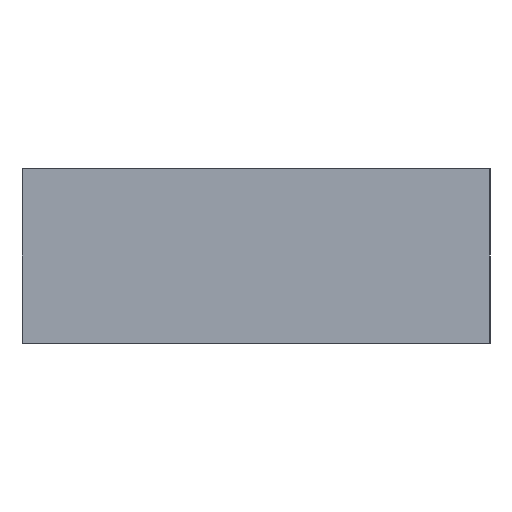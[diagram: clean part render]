
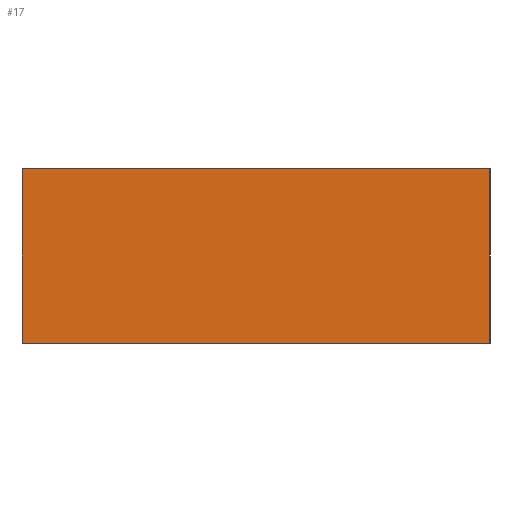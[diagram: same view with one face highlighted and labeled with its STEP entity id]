
A CAD part, left-side view. The second image highlights one B-rep face of the part: STEP entity #17.
In plain terms, the highlighted planar face has unit normal (-1, 0, 0).
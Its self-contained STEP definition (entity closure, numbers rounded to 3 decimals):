
#17 = ADVANCED_FACE('',(#18),#32,.F.);
#18 = FACE_BOUND('',#19,.F.);
#19 = EDGE_LOOP('',(#20,#55,#83,#111));
#20 = ORIENTED_EDGE('',*,*,#21,.F.);
#21 = EDGE_CURVE('',#22,#24,#26,.T.);
#22 = VERTEX_POINT('',#23);
#23 = CARTESIAN_POINT('',(-27.5,-16.1,-6.));
#24 = VERTEX_POINT('',#25);
#25 = CARTESIAN_POINT('',(-27.5,-16.1,6.));
#26 = SURFACE_CURVE('',#27,(#31,#43),.PCURVE_S1.);
#27 = LINE('',#28,#29);
#28 = CARTESIAN_POINT('',(-27.5,-16.1,-6.));
#29 = VECTOR('',#30,1.);
#30 = DIRECTION('',(0.,0.,1.));
#31 = PCURVE('',#32,#37);
#32 = PLANE('',#33);
#33 = AXIS2_PLACEMENT_3D('',#34,#35,#36);
#34 = CARTESIAN_POINT('',(-27.5,-16.1,-6.));
#35 = DIRECTION('',(1.,0.,0.));
#36 = DIRECTION('',(0.,0.,1.));
#37 = DEFINITIONAL_REPRESENTATION('',(#38),#42);
#38 = LINE('',#39,#40);
#39 = CARTESIAN_POINT('',(0.,0.));
#40 = VECTOR('',#41,1.);
#41 = DIRECTION('',(1.,0.));
#42 = ( GEOMETRIC_REPRESENTATION_CONTEXT(2) 
PARAMETRIC_REPRESENTATION_CONTEXT() REPRESENTATION_CONTEXT('2D SPACE',''
  ) );
#43 = PCURVE('',#44,#49);
#44 = PLANE('',#45);
#45 = AXIS2_PLACEMENT_3D('',#46,#47,#48);
#46 = CARTESIAN_POINT('',(-27.5,-16.1,-6.));
#47 = DIRECTION('',(0.,1.,0.));
#48 = DIRECTION('',(0.,0.,1.));
#49 = DEFINITIONAL_REPRESENTATION('',(#50),#54);
#50 = LINE('',#51,#52);
#51 = CARTESIAN_POINT('',(0.,0.));
#52 = VECTOR('',#53,1.);
#53 = DIRECTION('',(1.,0.));
#54 = ( GEOMETRIC_REPRESENTATION_CONTEXT(2) 
PARAMETRIC_REPRESENTATION_CONTEXT() REPRESENTATION_CONTEXT('2D SPACE',''
  ) );
#55 = ORIENTED_EDGE('',*,*,#56,.T.);
#56 = EDGE_CURVE('',#22,#57,#59,.T.);
#57 = VERTEX_POINT('',#58);
#58 = CARTESIAN_POINT('',(-27.5,16.1,-6.));
#59 = SURFACE_CURVE('',#60,(#64,#71),.PCURVE_S1.);
#60 = LINE('',#61,#62);
#61 = CARTESIAN_POINT('',(-27.5,-16.1,-6.));
#62 = VECTOR('',#63,1.);
#63 = DIRECTION('',(0.,1.,0.));
#64 = PCURVE('',#32,#65);
#65 = DEFINITIONAL_REPRESENTATION('',(#66),#70);
#66 = LINE('',#67,#68);
#67 = CARTESIAN_POINT('',(0.,0.));
#68 = VECTOR('',#69,1.);
#69 = DIRECTION('',(0.,-1.));
#70 = ( GEOMETRIC_REPRESENTATION_CONTEXT(2) 
PARAMETRIC_REPRESENTATION_CONTEXT() REPRESENTATION_CONTEXT('2D SPACE',''
  ) );
#71 = PCURVE('',#72,#77);
#72 = PLANE('',#73);
#73 = AXIS2_PLACEMENT_3D('',#74,#75,#76);
#74 = CARTESIAN_POINT('',(-27.5,-16.1,-6.));
#75 = DIRECTION('',(0.,0.,1.));
#76 = DIRECTION('',(1.,0.,0.));
#77 = DEFINITIONAL_REPRESENTATION('',(#78),#82);
#78 = LINE('',#79,#80);
#79 = CARTESIAN_POINT('',(0.,0.));
#80 = VECTOR('',#81,1.);
#81 = DIRECTION('',(0.,1.));
#82 = ( GEOMETRIC_REPRESENTATION_CONTEXT(2) 
PARAMETRIC_REPRESENTATION_CONTEXT() REPRESENTATION_CONTEXT('2D SPACE',''
  ) );
#83 = ORIENTED_EDGE('',*,*,#84,.T.);
#84 = EDGE_CURVE('',#57,#85,#87,.T.);
#85 = VERTEX_POINT('',#86);
#86 = CARTESIAN_POINT('',(-27.5,16.1,6.));
#87 = SURFACE_CURVE('',#88,(#92,#99),.PCURVE_S1.);
#88 = LINE('',#89,#90);
#89 = CARTESIAN_POINT('',(-27.5,16.1,-6.));
#90 = VECTOR('',#91,1.);
#91 = DIRECTION('',(0.,0.,1.));
#92 = PCURVE('',#32,#93);
#93 = DEFINITIONAL_REPRESENTATION('',(#94),#98);
#94 = LINE('',#95,#96);
#95 = CARTESIAN_POINT('',(0.,-32.2));
#96 = VECTOR('',#97,1.);
#97 = DIRECTION('',(1.,0.));
#98 = ( GEOMETRIC_REPRESENTATION_CONTEXT(2) 
PARAMETRIC_REPRESENTATION_CONTEXT() REPRESENTATION_CONTEXT('2D SPACE',''
  ) );
#99 = PCURVE('',#100,#105);
#100 = PLANE('',#101);
#101 = AXIS2_PLACEMENT_3D('',#102,#103,#104);
#102 = CARTESIAN_POINT('',(-27.5,16.1,-6.));
#103 = DIRECTION('',(0.,1.,0.));
#104 = DIRECTION('',(0.,0.,1.));
#105 = DEFINITIONAL_REPRESENTATION('',(#106),#110);
#106 = LINE('',#107,#108);
#107 = CARTESIAN_POINT('',(0.,0.));
#108 = VECTOR('',#109,1.);
#109 = DIRECTION('',(1.,0.));
#110 = ( GEOMETRIC_REPRESENTATION_CONTEXT(2) 
PARAMETRIC_REPRESENTATION_CONTEXT() REPRESENTATION_CONTEXT('2D SPACE',''
  ) );
#111 = ORIENTED_EDGE('',*,*,#112,.F.);
#112 = EDGE_CURVE('',#24,#85,#113,.T.);
#113 = SURFACE_CURVE('',#114,(#118,#125),.PCURVE_S1.);
#114 = LINE('',#115,#116);
#115 = CARTESIAN_POINT('',(-27.5,-16.1,6.));
#116 = VECTOR('',#117,1.);
#117 = DIRECTION('',(0.,1.,0.));
#118 = PCURVE('',#32,#119);
#119 = DEFINITIONAL_REPRESENTATION('',(#120),#124);
#120 = LINE('',#121,#122);
#121 = CARTESIAN_POINT('',(12.,0.));
#122 = VECTOR('',#123,1.);
#123 = DIRECTION('',(0.,-1.));
#124 = ( GEOMETRIC_REPRESENTATION_CONTEXT(2) 
PARAMETRIC_REPRESENTATION_CONTEXT() REPRESENTATION_CONTEXT('2D SPACE',''
  ) );
#125 = PCURVE('',#126,#131);
#126 = PLANE('',#127);
#127 = AXIS2_PLACEMENT_3D('',#128,#129,#130);
#128 = CARTESIAN_POINT('',(-27.5,-16.1,6.));
#129 = DIRECTION('',(0.,0.,1.));
#130 = DIRECTION('',(1.,0.,0.));
#131 = DEFINITIONAL_REPRESENTATION('',(#132),#136);
#132 = LINE('',#133,#134);
#133 = CARTESIAN_POINT('',(0.,0.));
#134 = VECTOR('',#135,1.);
#135 = DIRECTION('',(0.,1.));
#136 = ( GEOMETRIC_REPRESENTATION_CONTEXT(2) 
PARAMETRIC_REPRESENTATION_CONTEXT() REPRESENTATION_CONTEXT('2D SPACE',''
  ) );
